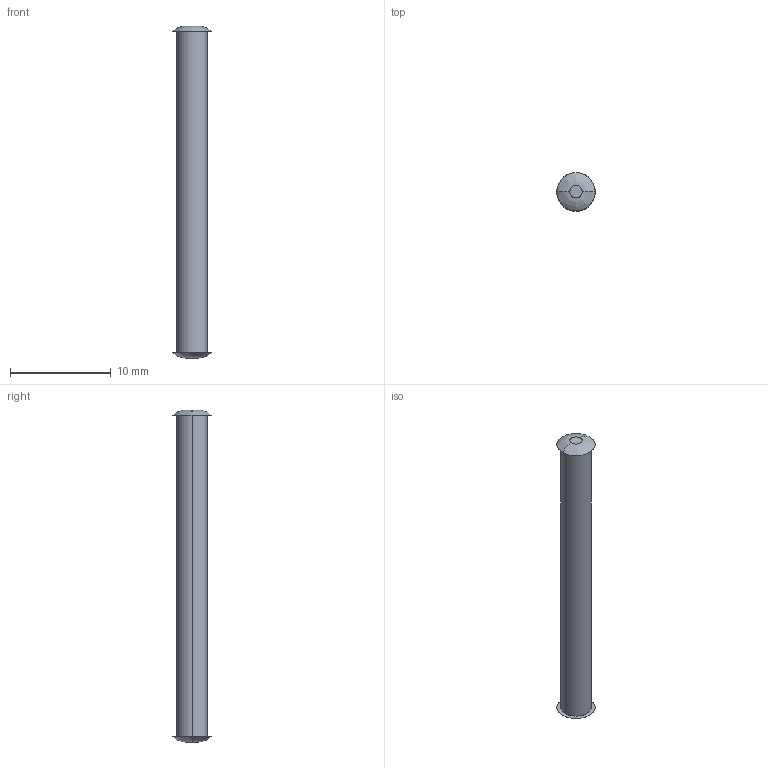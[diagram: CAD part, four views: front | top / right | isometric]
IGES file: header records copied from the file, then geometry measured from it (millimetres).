
Start section: SolidWorks IGES FILE using analytic representation for surfaces
Global section: file name: C:\Documents and Settings\lecoutey\Bureau\GP 2013\1086.050.10.IGS; native system: SolidWorks 2004 by SolidWorks Corporation; preprocessor: Version 5.3; author: lecoutey; date: 050329.162011; units: millimetre
Bounding box: 3.8 x 3.8 x 33 mm (x, y, z)
Surface area: 335.4 mm2 (no closed solid volume)
Topology: 0 solids, 0 shells, 10 faces, 184 edges, 184 vertices
Faces by surface type: bspline 8, revolution 2
